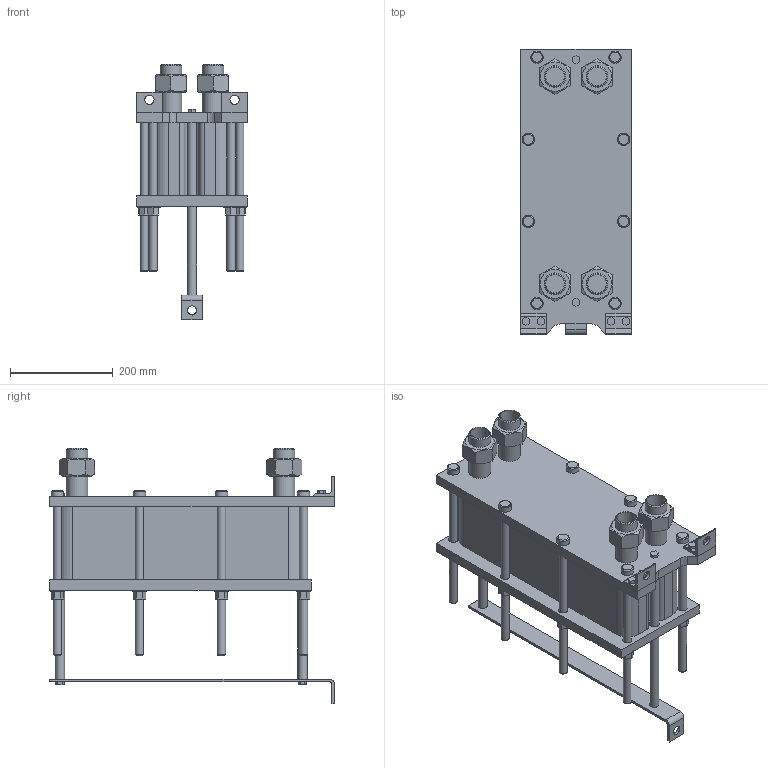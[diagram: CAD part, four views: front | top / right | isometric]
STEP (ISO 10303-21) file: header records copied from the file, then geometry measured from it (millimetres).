
FILE_DESCRIPTION(/* description */ (''),/* implementation_level */ '2;1');
FILE_NAME(/* name */ 'C:\Users\zhuro\Desktop\ENCO\TO\ЭН-004\ЭН-0,5-004-46-1.stp',/* time_stamp */ '2022-06-06T10:46:47+03:00',/* author */ ('zhuro'),/* organization */ (''),/* preprocessor_version */ 'ST-DEVELOPER v18.1',/* originating_system */ 'Autodesk Inventor 2022',/* authorisation */ '');
FILE_SCHEMA (('AUTOMOTIVE_DESIGN { 1 0 10303 214 3 1 1 }'));
Length unit declared in the file: millimetre
Products named in the file (1): ЭН-0,5-004-46-1
Bounding box: 216 x 555 x 497.8 mm (x, y, z)
Volume: 16259411.1 mm3; surface area: 1267748.1 mm2
Topology: 40 solids, 40 shells, 403 faces, 865 edges, 574 vertices
Faces by surface type: plane 272, cylinder 103, cone 28
Full cylindrical faces by diameter (mm): 10 x4, 16 x16, 18 x29, 20 x2, 24 x8, 28 x8, 36.3 x5, 42.3 x9
Entity records: 11137 total; most frequent: CARTESIAN_POINT 1939, DIRECTION 1879, ORIENTED_EDGE 1730, EDGE_CURVE 865, AXIS2_PLACEMENT_3D 658, VERTEX_POINT 574, LINE 563, VECTOR 563
